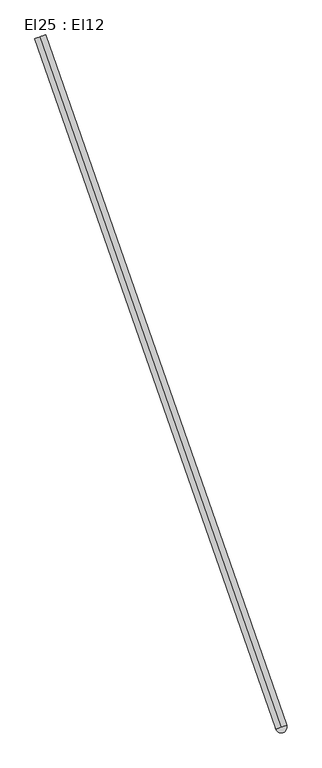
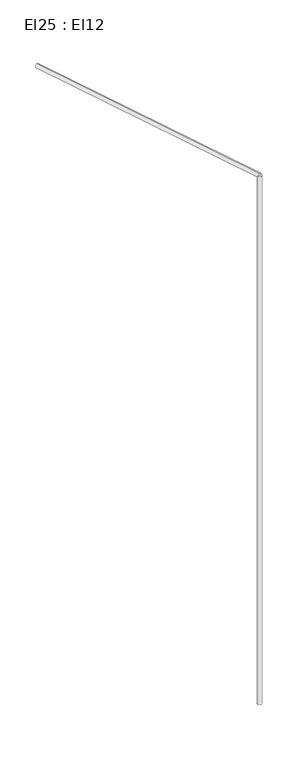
"""IFC4 building model written with IfcOpenShell, lengths in millimetres: cable carrier segment geometry, El25 : El12."""

from ifc_helpers import new_model, si_unit, point, frame, frame_2d, origin, place, context, project, spatial, circle_curve, trimmed, segment, composite_curve, outline, extrude, source, transform, mapped, element, save


def el25_el12_05267416(model_context):
    return source(origin(), model_context, "Body", "SweptSolid", [
        extrude(outline(composite_curve([segment(trimmed(circle_curve(frame_2d((4967.3546511, 66.0151745)), 9.5), [point((4957.8546511, 66.0151745))], [point((4976.8546511, 66.0151745))], False, "CARTESIAN"), True, "CONTINUOUS"), segment(trimmed(circle_curve(frame_2d((4967.3546511, 66.0151745)), 9.5), [point((4976.8546511, 66.0151745))], [point((4957.8546511, 66.0151745))], False, "CARTESIAN"), True, "CONTINUOUS")], self_intersect=False)), frame((0.0, 0.0, 1830.0), z_axis=(0.0, 0.0, 1.0), x_axis=(1.0, 0.0, 0.0)), (0.0, 0.0, 1.0), 2620.0),
        extrude(outline(composite_curve([segment(trimmed(circle_curve(frame_2d((0.0, -9.5)), 9.5), [point((0.0, -19.0))], [point((0.0, 0.0))], False, "CARTESIAN"), True, "CONTINUOUS"), segment(trimmed(circle_curve(frame_2d((0.0, -9.5)), 9.5), [point((0.0, 0.0))], [point((0.0, -19.0))], False, "CARTESIAN"), True, "CONTINUOUS")], self_intersect=False)), frame((4967.3537658, 66.0172351, 4459.5), z_axis=(-0.3299880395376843, 0.9439851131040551, 0.0), x_axis=(-0.9439851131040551, -0.3299880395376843, 0.0)), (0.0, 0.0, 1.0), 1194.38),
    ])


if __name__ == "__main__":
    model = new_model("IFC4")
    model_context = context("Model", 3, world=origin())
    ifc_project = project(units=[si_unit("LENGTHUNIT", "METRE", prefix="MILLI")], contexts=[model_context])
    site = spatial("IfcSite", under=ifc_project)
    building = spatial("IfcBuilding", under=site)
    placement = place(None, origin())
    el25_el12_shape = el25_el12_05267416(model_context)
    element("IfcCableCarrierSegment", 1, ObjectType="El25 : El12", at=placement, inside=building, context=model_context, shape_type="MappedRepresentation", body=[
        mapped(el25_el12_shape, transform((0.0, 0.0, 0.0), x_axis=(1.0, 0.0, 0.0), y_axis=(0.0, 1.0, 0.0), z_axis=(0.0, 0.0, 1.0))),
    ])
    save(model, "model.ifc")
